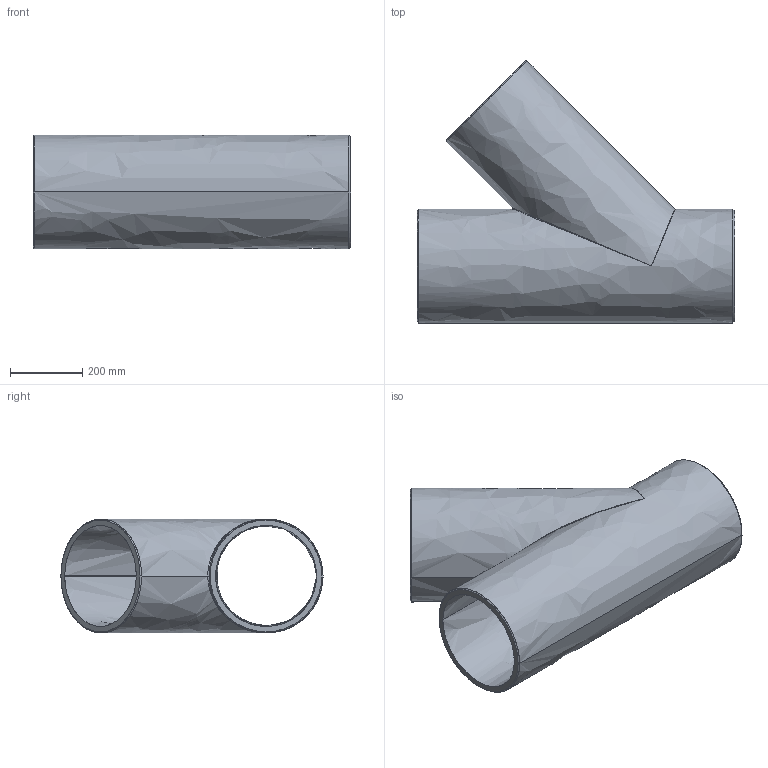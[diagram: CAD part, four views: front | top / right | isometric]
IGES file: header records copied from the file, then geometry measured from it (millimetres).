
Start section:  PTC IGES file: ats45_d315.igs
Global section: file name: ats45_d315.igs; native system: Pro/ENGINEER by Parametric Technology Corporation; preprocessor: 2011490; author: mtunjic; organization: Unknown; date: 20130724.093524; units: millimetre
Bounding box: 877 x 724.25 x 315 mm (x, y, z)
Surface area: 2561567.3 mm2 (no closed solid volume)
Topology: 0 solids, 0 shells, 22 faces, 106 edges, 106 vertices
Faces by surface type: bspline 22
